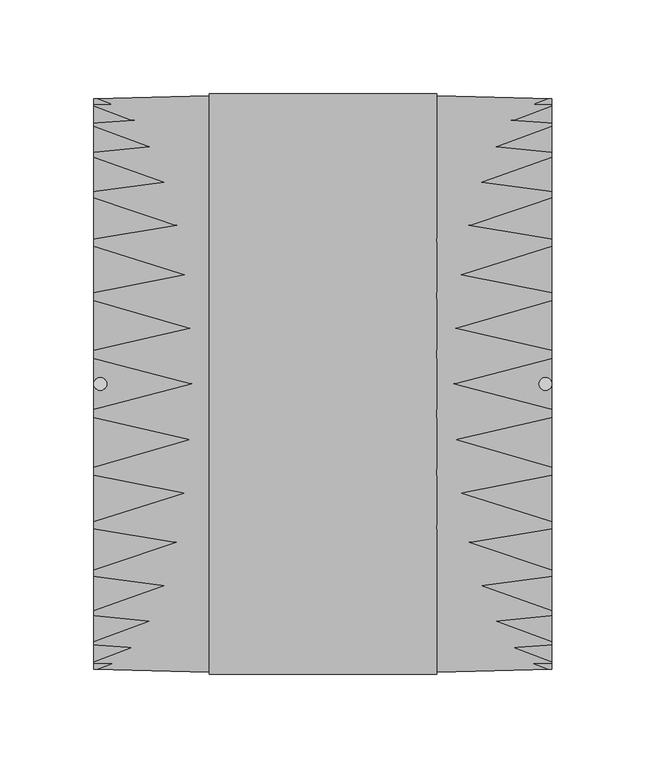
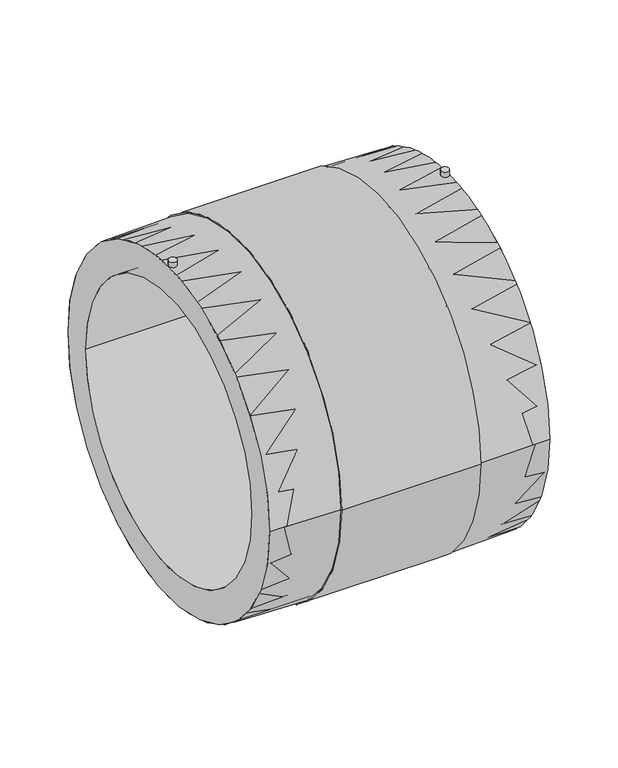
"""IFC4 building model written with IfcOpenShell, lengths in millimetres: pipe fitting geometry, EGB_VASEN_ PPR_Manguito electrosoldable WXRD100 : Manguito electrosoldable WXRD100."""

from ifc_helpers import new_model, si_unit, point, frame, frame_2d, origin, origin_2d, place, context, project, spatial, polyline, circle_curve, trimmed, segment, composite_curve, outline, extrude, source, transform, mapped, element, save
from ifc_brep_helpers import plane_surface, cylinder_surface, revolved_surface, advanced_brep


def pipe_fitting_a451d28c(model_context):
    return source(origin(), model_context, "Body", "SolidModel", [
        extrude(outline(composite_curve([segment(trimmed(circle_curve(origin_2d(), 152.0), [point((-152.0, 0.0))], [point((152.0, 0.0))], False, "CARTESIAN"), True, "CONTINUOUS"), segment(trimmed(circle_curve(origin_2d(), 152.0), [point((152.0, 0.0))], [point((-152.0, 0.0))], False, "CARTESIAN"), True, "CONTINUOUS")], self_intersect=False), holes=[composite_curve([segment(trimmed(circle_curve(origin_2d(), 125.0), [point((-125.0, 0.0))], [point((125.0, 0.0))], True, "CARTESIAN"), True, "CONTINUOUS"), segment(trimmed(circle_curve(origin_2d(), 125.0), [point((125.0, 0.0))], [point((-125.0, 0.0))], True, "CARTESIAN"), True, "CONTINUOUS")], self_intersect=False)]), frame((-122.0, 0.0, 0.0), z_axis=(1.0, 0.0, 0.0), x_axis=(0.0, 1.0, 0.0)), (0.0, 0.0, 1.0), 244.0),
        extrude(outline(composite_curve([segment(trimmed(circle_curve(frame_2d((-118.5878802, 0.0)), 3.4121198), [point((-122.0, 0.0))], [point((-115.1757605, 0.0))], False, "CARTESIAN"), True, "CONTINUOUS"), segment(trimmed(circle_curve(frame_2d((-118.5878802, 0.0)), 3.4121198), [point((-115.1757605, 0.0))], [point((-122.0, 0.0))], False, "CARTESIAN"), True, "CONTINUOUS")], self_intersect=False)), frame((0.0, 0.0, 127.0), z_axis=(0.0, 0.0, 1.0), x_axis=(1.0, 0.0, 0.0)), (0.0, 0.0, 1.0), 30.0),
        extrude(outline(composite_curve([segment(trimmed(circle_curve(frame_2d((118.5878802, 0.0)), 3.4121198), [point((115.1757605, 0.0))], [point((122.0, 0.0))], False, "CARTESIAN"), True, "CONTINUOUS"), segment(trimmed(circle_curve(frame_2d((118.5878802, 0.0)), 3.4121198), [point((122.0, 0.0))], [point((115.1757605, 0.0))], False, "CARTESIAN"), True, "CONTINUOUS")], self_intersect=False)), frame((0.0, 0.0, 127.0), z_axis=(0.0, 0.0, 1.0), x_axis=(1.0, 0.0, 0.0)), (0.0, 0.0, 1.0), 30.0),
        advanced_brep(
        [(60.6, -153.582849, 0.0), (60.6, 153.582849, 0.0), (122.0, 152.0, 0.0), (122.0, -152.0, 0.0), (60.6, -154.582849, 0.0), (60.6, 154.582849, 0.0), (-60.6, -154.582849, 0.0), (-60.6, 154.582849, 0.0), (-60.6, -153.582849, 0.0), (-60.6, 153.582849, 0.0), (-122.0, -152.0, 0.0), (-122.0, 152.0, 0.0)],
        [
            (0, 1, circle_curve(frame((60.6, 0.0, 0.0), z_axis=(1.0, 0.0, 0.0), x_axis=(0.0, 1.0, 0.0)), 153.582849)),
            (1, 2),
            (2, 3, circle_curve(frame((122.0, 0.0, 0.0), z_axis=(-1.0, 0.0, 0.0), x_axis=(0.0, 1.0, 0.0)), 152.0)),
            (3, 0),
            (1, 0, circle_curve(frame((60.6, 0.0, 0.0), z_axis=(1.0, 0.0, 0.0), x_axis=(0.0, 1.0, 0.0)), 153.582849)),
            (3, 2, circle_curve(frame((122.0, 0.0, 0.0), z_axis=(-1.0, 0.0, 0.0), x_axis=(0.0, 1.0, 0.0)), 152.0)),
            (4, 5, circle_curve(frame((60.6, 0.0, 0.0), z_axis=(1.0, 0.0, 0.0), x_axis=(0.0, 1.0, 0.0)), 154.582849)),
            (5, 1),
            (0, 4),
            (5, 4, circle_curve(frame((60.6, 0.0, 0.0), z_axis=(1.0, 0.0, 0.0), x_axis=(0.0, 1.0, 0.0)), 154.582849)),
            (6, 7, circle_curve(frame((-60.6, 0.0, 0.0), z_axis=(1.0, 0.0, 0.0), x_axis=(0.0, 1.0, 0.0)), 154.582849)),
            (7, 5),
            (4, 6),
            (7, 6, circle_curve(frame((-60.6, 0.0, 0.0), z_axis=(1.0, 0.0, 0.0), x_axis=(0.0, 1.0, 0.0)), 154.582849)),
            (8, 9, circle_curve(frame((-60.6, 0.0, 0.0), z_axis=(1.0, 0.0, 0.0), x_axis=(0.0, 1.0, 0.0)), 153.582849)),
            (9, 7),
            (6, 8),
            (9, 8, circle_curve(frame((-60.6, 0.0, 0.0), z_axis=(1.0, 0.0, 0.0), x_axis=(0.0, 1.0, 0.0)), 153.582849)),
            (10, 11, circle_curve(frame((-122.0, 0.0, 0.0), z_axis=(1.0, 0.0, 0.0), x_axis=(0.0, 1.0, 0.0)), 152.0)),
            (11, 9),
            (8, 10),
            (11, 10, circle_curve(frame((-122.0, 0.0, 0.0), z_axis=(1.0, 0.0, 0.0), x_axis=(0.0, 1.0, 0.0)), 152.0)),
            (2, 11),
            (10, 3),
        ],
        [
            revolved_surface(polyline([(122.0, 152.0, 0.0), (60.6, 153.582849, 0.0)]), (-115.7721997, 0.0, 0.0), (-1.0, 0.0, 0.0)),
            plane_surface(frame((60.6, 0.0, 0.0), z_axis=(1.0, 0.0, 0.0), x_axis=(0.0, 1.0, 0.0))),
            cylinder_surface(frame((-115.7721997, 0.0, 0.0), z_axis=(-1.0, 0.0, 0.0), x_axis=(0.0, 1.0, 0.0)), 154.582849),
            plane_surface(frame((-60.6, 0.0, 0.0), z_axis=(-1.0, 0.0, 0.0), x_axis=(0.0, 1.0, 0.0))),
            revolved_surface(polyline([(-60.6, 153.582849, 0.0), (-122.0, 152.0, 0.0)]), (-115.7721997, 0.0, 0.0), (-1.0, 0.0, 0.0)),
            revolved_surface(polyline([(-122.0, 152.0, 0.0), (121.99999999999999, 152.0, 0.0)]), (-115.7721997, 0.0, 0.0), (-1.0, 0.0, 0.0)),
        ],
        [
            (0, [[1, 2, 3, 4]]),
            (0, [[5, -4, 6, -2]]),
            (1, [[7, 8, -1, 9]]),
            (1, [[10, -9, -5, -8]]),
            (2, [[11, 12, -7, 13]]),
            (2, [[14, -13, -10, -12]]),
            (3, [[15, 16, -11, 17]]),
            (3, [[18, -17, -14, -16]]),
            (4, [[19, 20, -15, 21]]),
            (4, [[22, -21, -18, -20]]),
            (5, [[-3, 23, -19, 24]]),
            (5, [[-6, -24, -22, -23]]),
        ],
    ),
    ])


if __name__ == "__main__":
    model = new_model("IFC4")
    model_context = context("Model", 3, world=origin())
    ifc_project = project(units=[si_unit("LENGTHUNIT", "METRE", prefix="MILLI")], contexts=[model_context])
    site = spatial("IfcSite", under=ifc_project)
    building = spatial("IfcBuilding", under=site)
    placement = place(None, origin())
    pipe_fitting_shape = pipe_fitting_a451d28c(model_context)
    element("IfcPipeFitting", 1, ObjectType="EGB_VASEN_ PPR_Manguito electrosoldable WXRD100 : Manguito electrosoldable WXRD100", at=placement, inside=building, context=model_context, shape_type="MappedRepresentation", body=[
        mapped(pipe_fitting_shape, transform((0.0, 0.0, 0.0), x_axis=(1.0, 0.0, 0.0), y_axis=(0.0, 1.0, 0.0), z_axis=(0.0, 0.0, 1.0))),
    ])
    save(model, "model.ifc")
